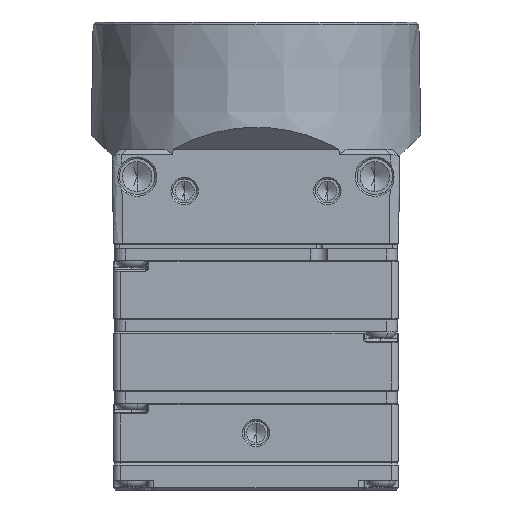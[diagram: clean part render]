
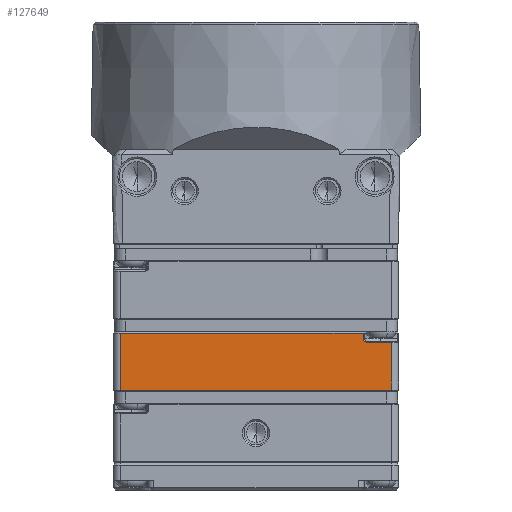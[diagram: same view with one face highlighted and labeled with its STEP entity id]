
A CAD part, front view. The second image highlights one B-rep face of the part: STEP entity #127649.
In plain terms, the highlighted planar face has unit normal (0, -1, 0).
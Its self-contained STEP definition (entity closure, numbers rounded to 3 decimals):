
#2211 = VERTEX_POINT ( 'NONE', #10362 ) ;
#3928 = LINE ( 'NONE', #92615, #161182 ) ;
#10362 = CARTESIAN_POINT ( 'NONE',  ( -11.4, -12., -7.45 ) ) ;
#17728 = EDGE_LOOP ( 'NONE', ( #115652, #135601, #18241, #81249, #119622, #44303, #76605 ) ) ;
#17878 = DIRECTION ( 'NONE',  ( -1., 0., 0. ) ) ;
#18241 = ORIENTED_EDGE ( 'NONE', *, *, #51018, .T. ) ;
#19893 = CARTESIAN_POINT ( 'NONE',  ( 9.369, -12., -8.25 ) ) ;
#24203 = EDGE_CURVE ( 'NONE', #138222, #54225, #3928, .T. ) ;
#24281 = CARTESIAN_POINT ( 'NONE',  ( 11.4, -12., -12.25 ) ) ;
#27755 = CIRCLE ( 'NONE', #115950, 0.35 ) ;
#28418 = EDGE_CURVE ( 'NONE', #158633, #36452, #67068, .T. ) ;
#36349 = DIRECTION ( 'NONE',  ( 1., 0., 0. ) ) ;
#36452 = VERTEX_POINT ( 'NONE', #19893 ) ;
#41101 = DIRECTION ( 'NONE',  ( 0., 0., 1. ) ) ;
#44303 = ORIENTED_EDGE ( 'NONE', *, *, #116202, .T. ) ;
#45555 = PLANE ( 'NONE',  #105539 ) ;
#46304 = CARTESIAN_POINT ( 'NONE',  ( -11.4, -12., -9.35 ) ) ;
#49777 = VECTOR ( 'NONE', #110634, 1000. ) ;
#51018 = EDGE_CURVE ( 'NONE', #36452, #138222, #27755, .T. ) ;
#52057 = VECTOR ( 'NONE', #112106, 1000. ) ;
#53648 = CARTESIAN_POINT ( 'NONE',  ( 11.4, -12., -9.35 ) ) ;
#54225 = VERTEX_POINT ( 'NONE', #137531 ) ;
#55553 = LINE ( 'NONE', #157478, #145659 ) ;
#56097 = LINE ( 'NONE', #53648, #87187 ) ;
#57143 = CARTESIAN_POINT ( 'NONE',  ( 11.4, -12., -8.25 ) ) ;
#58099 = DIRECTION ( 'NONE',  ( 0., 0., 1. ) ) ;
#67068 = LINE ( 'NONE', #97929, #52057 ) ;
#72197 = LINE ( 'NONE', #46304, #49777 ) ;
#74791 = LINE ( 'NONE', #88983, #92353 ) ;
#74895 = EDGE_CURVE ( 'NONE', #149440, #163479, #74791, .T. ) ;
#76605 = ORIENTED_EDGE ( 'NONE', *, *, #74895, .T. ) ;
#81249 = ORIENTED_EDGE ( 'NONE', *, *, #24203, .T. ) ;
#83152 = CARTESIAN_POINT ( 'NONE',  ( 12., -12., -9.35 ) ) ;
#87187 = VECTOR ( 'NONE', #107070, 1000. ) ;
#88983 = CARTESIAN_POINT ( 'NONE',  ( 12., -12., -12.25 ) ) ;
#90458 = DIRECTION ( 'NONE',  ( 0., 1., 0. ) ) ;
#92353 = VECTOR ( 'NONE', #36349, 1000. ) ;
#92615 = CARTESIAN_POINT ( 'NONE',  ( 9.073, -12., -9.452 ) ) ;
#97929 = CARTESIAN_POINT ( 'NONE',  ( 12., -12., -8.25 ) ) ;
#102317 = EDGE_CURVE ( 'NONE', #163479, #158633, #56097, .T. ) ;
#105539 = AXIS2_PLACEMENT_3D ( 'NONE', #83152, #134952, #58099 ) ;
#107070 = DIRECTION ( 'NONE',  ( 0., 0., 1. ) ) ;
#110634 = DIRECTION ( 'NONE',  ( 0., 0., -1. ) ) ;
#112106 = DIRECTION ( 'NONE',  ( -1., 0., 0. ) ) ;
#113931 = EDGE_CURVE ( 'NONE', #54225, #2211, #55553, .T. ) ;
#115652 = ORIENTED_EDGE ( 'NONE', *, *, #102317, .T. ) ;
#115950 = AXIS2_PLACEMENT_3D ( 'NONE', #142212, #90458, #41101 ) ;
#116202 = EDGE_CURVE ( 'NONE', #2211, #149440, #72197, .T. ) ;
#119622 = ORIENTED_EDGE ( 'NONE', *, *, #113931, .T. ) ;
#127649 = ADVANCED_FACE ( 'NONE', ( #160863 ), #45555, .F. ) ;
#134952 = DIRECTION ( 'NONE',  ( 0., 1., 0. ) ) ;
#135601 = ORIENTED_EDGE ( 'NONE', *, *, #28418, .T. ) ;
#137531 = CARTESIAN_POINT ( 'NONE',  ( 9.003, -12., -7.45 ) ) ;
#138222 = VERTEX_POINT ( 'NONE', #149304 ) ;
#142212 = CARTESIAN_POINT ( 'NONE',  ( 9.369, -12., -7.9 ) ) ;
#143555 = DIRECTION ( 'NONE',  ( -0.035, 0., 0.999 ) ) ;
#145659 = VECTOR ( 'NONE', #17878, 1000. ) ;
#149304 = CARTESIAN_POINT ( 'NONE',  ( 9.02, -12., -7.912 ) ) ;
#149440 = VERTEX_POINT ( 'NONE', #151824 ) ;
#151824 = CARTESIAN_POINT ( 'NONE',  ( -11.4, -12., -12.25 ) ) ;
#157478 = CARTESIAN_POINT ( 'NONE',  ( 12., -12., -7.45 ) ) ;
#158633 = VERTEX_POINT ( 'NONE', #57143 ) ;
#160863 = FACE_OUTER_BOUND ( 'NONE', #17728, .T. ) ;
#161182 = VECTOR ( 'NONE', #143555, 1000. ) ;
#163479 = VERTEX_POINT ( 'NONE', #24281 ) ;
